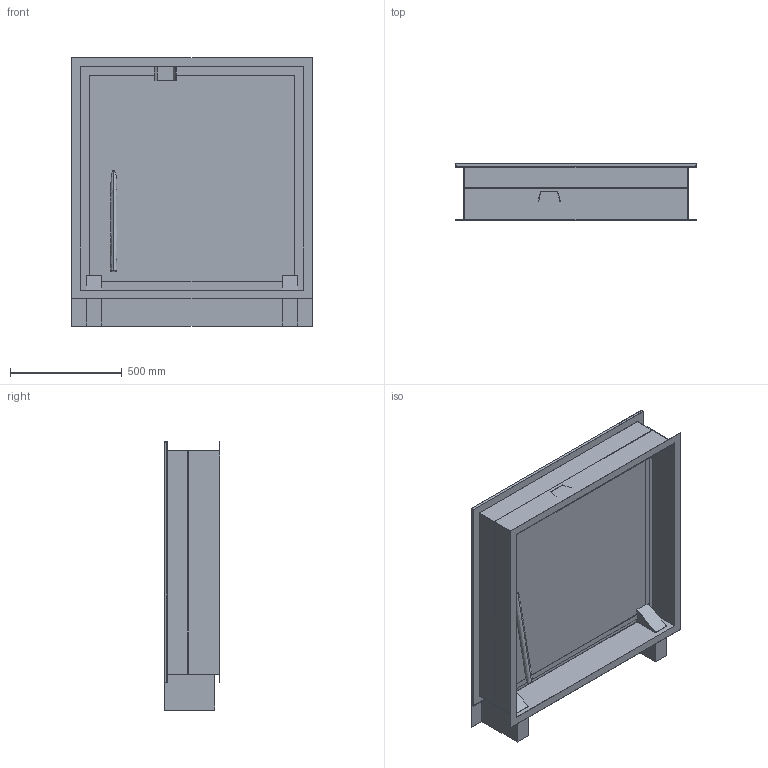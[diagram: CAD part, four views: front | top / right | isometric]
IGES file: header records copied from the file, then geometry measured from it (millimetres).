
Start section:  PTC IGES file: 51711661.igs
Global section: file name: 51711661.igs; native system: Creo Parametric by PTC Inc.; preprocessor: 2022162; author: hrl; organization: Unknown; date: 20250625.101821; units: millimetre
Bounding box: 1078 x 250 x 1200 mm (x, y, z)
Surface area: 5867314.8 mm2 (no closed solid volume)
Topology: 0 solids, 0 shells, 97 faces, 520 edges, 520 vertices
Faces by surface type: bspline 88, revolution 9
